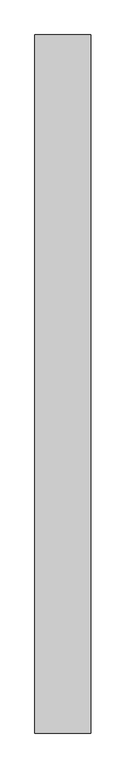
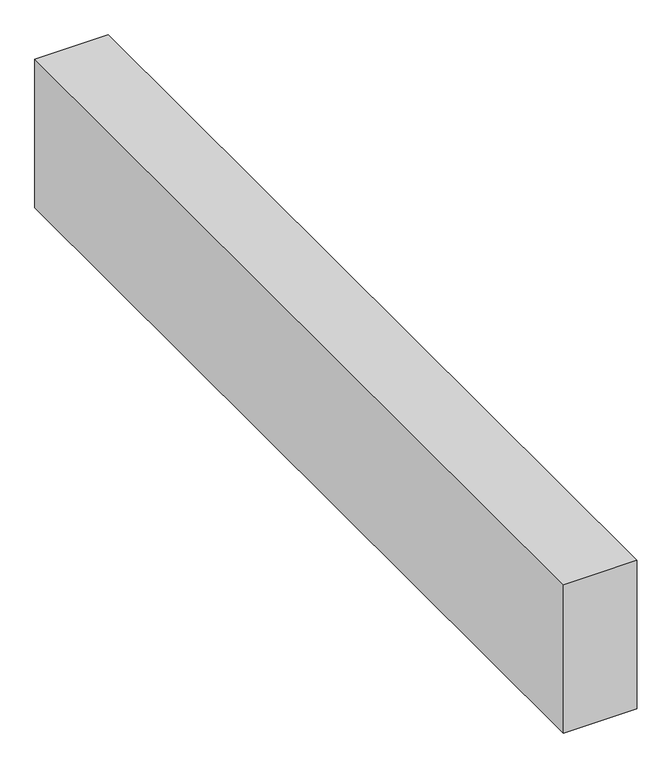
"""IFC4 building model written with IfcOpenShell, lengths in millimetres: proxy geometry."""

from ifc_helpers import new_model, si_unit, frame, origin, place, context, project, spatial, polyline, outline, extrude, source, transform, mapped, element, save


def structural_framing_bf974e39(model_context):
    return source(origin(), model_context, "Body", "SweptSolid", [
        extrude(outline(polyline([(70.0, -876.2), (-70.0, -876.2), (-70.0, 876.2), (70.0, 876.2), (70.0, -876.2)])), frame((0.0, 0.0, -300.0), z_axis=(0.0, 0.0, 1.0), x_axis=(1.0, 0.0, 0.0)), (0.0, 0.0, 1.0), 300.0),
    ])


if __name__ == "__main__":
    model = new_model("IFC4")
    model_context = context("Model", 3, world=origin())
    ifc_project = project(units=[si_unit("LENGTHUNIT", "METRE", prefix="MILLI")], contexts=[model_context])
    site = spatial("IfcSite", under=ifc_project)
    building = spatial("IfcBuilding", under=site)
    placement = place(None, origin())
    structural_framing_shape = structural_framing_bf974e39(model_context)
    element("IfcBuildingElementProxy", 1, Name="Structural Framing", at=placement, inside=building, context=model_context, shape_type="MappedRepresentation", body=[
        mapped(structural_framing_shape, transform((0.0, 0.0, 0.0), x_axis=(1.0, 0.0, 0.0), y_axis=(0.0, 1.0, 0.0), z_axis=(0.0, 0.0, 1.0))),
    ])
    save(model, "model.ifc")
